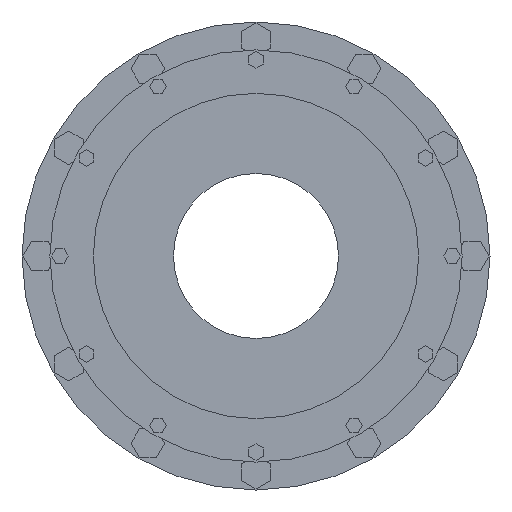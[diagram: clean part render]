
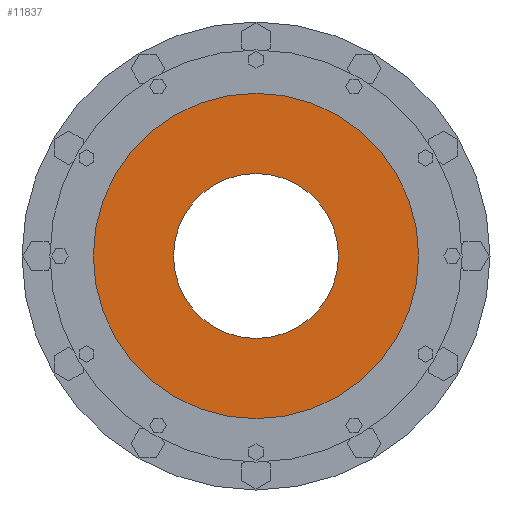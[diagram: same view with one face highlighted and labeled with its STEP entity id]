
A CAD part, left-side view. The second image highlights one B-rep face of the part: STEP entity #11837.
In plain terms, the highlighted planar face has unit normal (-1, 0, 0) as drawn and (1, 0, 0) by its records, which use the part's own axes.
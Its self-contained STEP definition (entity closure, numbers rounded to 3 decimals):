
#11661=CARTESIAN_POINT('',(-15.,0.,0.));
#11662=DIRECTION('',(1.,0.,0.));
#11663=DIRECTION('',(0.,1.,0.));
#11664=AXIS2_PLACEMENT_3D('',#11661,#11662,#11663);
#11671=CARTESIAN_POINT('',(-15.,0.,0.));
#11672=DIRECTION('',(-1.,0.,0.));
#11673=DIRECTION('',(0.,1.,0.));
#11674=AXIS2_PLACEMENT_3D('',#11671,#11672,#11673);
#11676=CARTESIAN_POINT('',(-15.,0.,0.));
#11677=DIRECTION('',(1.,0.,0.));
#11678=DIRECTION('',(0.,1.,0.));
#11679=AXIS2_PLACEMENT_3D('',#11676,#11677,#11678);
#11755=CARTESIAN_POINT('',(-15.,0.,0.));
#11756=DIRECTION('',(1.,0.,0.));
#11757=DIRECTION('',(0.,-1.,0.));
#11758=AXIS2_PLACEMENT_3D('',#11755,#11756,#11757);
#11782=CARTESIAN_POINT('',(-15.,365.,0.));
#11784=VERTEX_POINT('',#11782);
#11786=CARTESIAN_POINT('',(-15.,-365.,0.));
#11788=VERTEX_POINT('',#11786);
#11793=CARTESIAN_POINT('',(-15.,185.,0.));
#11794=CARTESIAN_POINT('',(-15.,-185.,0.));
#11795=VERTEX_POINT('',#11793);
#11796=VERTEX_POINT('',#11794);
#11821=CARTESIAN_POINT('',(-15.,0.,0.));
#11822=DIRECTION('',(1.,0.,0.));
#11823=DIRECTION('',(0.,-1.,0.));
#11824=AXIS2_PLACEMENT_3D('',#11821,#11822,#11823);
#11825=PLANE('',#11824);
#11827=ORIENTED_EDGE('',*,*,#11826,.T.);
#11829=ORIENTED_EDGE('',*,*,#11828,.F.);
#11830=EDGE_LOOP('',(#11827,#11829));
#11831=FACE_OUTER_BOUND('',#11830,.F.);
#11832=ORIENTED_EDGE('',*,*,#11810,.T.);
#11834=ORIENTED_EDGE('',*,*,#11833,.T.);
#11835=EDGE_LOOP('',(#11832,#11834));
#11836=FACE_BOUND('',#11835,.F.);
#11837=ADVANCED_FACE('',(#11831,#11836),#11825,.T.);
#11665=CIRCLE('',#11664,185.);
#11675=CIRCLE('',#11674,365.);
#11680=CIRCLE('',#11679,365.);
#11759=CIRCLE('',#11758,185.);
#11810=EDGE_CURVE('',#11795,#11796,#11665,.T.);
#11826=EDGE_CURVE('',#11784,#11788,#11675,.T.);
#11828=EDGE_CURVE('',#11784,#11788,#11680,.T.);
#11833=EDGE_CURVE('',#11796,#11795,#11759,.T.);
